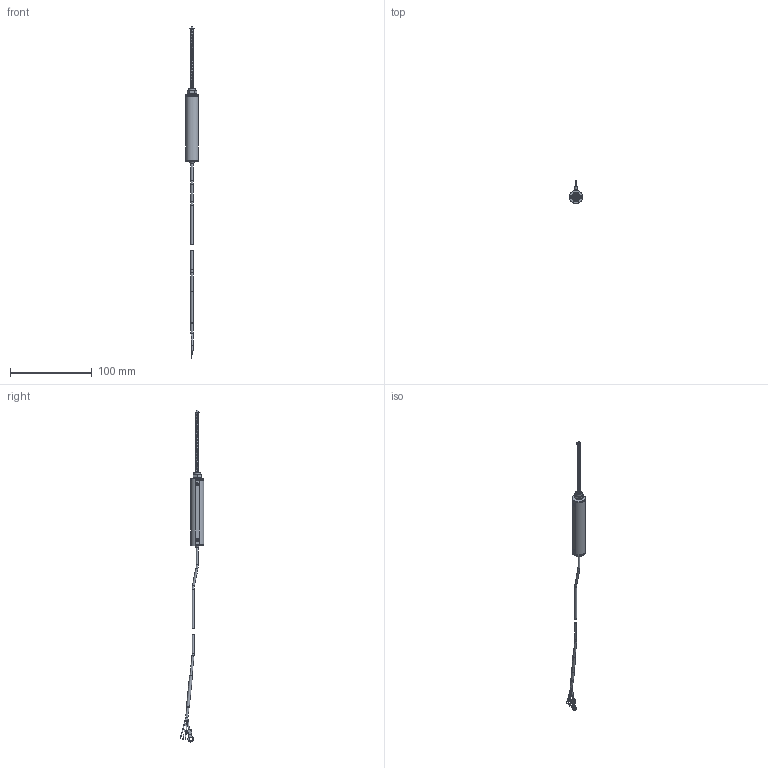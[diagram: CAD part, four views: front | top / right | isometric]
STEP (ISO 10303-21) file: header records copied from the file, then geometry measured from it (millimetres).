
FILE_DESCRIPTION(/* description */ (''),/* implementation_level */ '2;1');
FILE_NAME(/* name */ 'D:\Users\Justin\Documents\CAD Drawings\The Sensor Connection\LPPS\LPPS-MSL\3D\LPPS-MSL-050\LPPS-MSL-050.stp',/* time_stamp */ '2019-08-29T15:22:54-04:00',/* author */ ('Justin'),/* organization */ (''),/* preprocessor_version */ 'ST-DEVELOPER v18',/* originating_system */ 'Autodesk Inventor 2020',/* authorisation */ '');
FILE_SCHEMA (('AUTOMOTIVE_DESIGN { 1 0 10303 214 3 1 1 }'));
Length unit declared in the file: inch
Products named in the file (5): LPPS-MSL-025; LPPS-MSL-050 HOUSING_Shrinkwrap_1; LPPS-MSL-025 SHAFT_Shrinkwrap_1; ISO 4035 - M8(6); LPPS-MSL-050 Spring
Assembly tree (4 placements, depth 2):
  LPPS-MSL-025
    LPPS-MSL-050 HOUSING_Shrinkwrap_1
    LPPS-MSL-025 SHAFT_Shrinkwrap_1
    ISO 4035 - M8(6)
    LPPS-MSL-050 Spring
Bounding box: 15.1 x 28.76 x 405.78 mm (x, y, z)
Volume: 7207 mm3; surface area: 14242.7 mm2
Topology: 24 solids, 24 shells, 341 faces, 863 edges, 583 vertices
Faces by surface type: plane 162, cylinder 83, cone 70, torus 23, sphere 2, bspline 1
Full cylindrical faces by diameter (mm): 0.381 x3, 0.635 x3, 1.5 x1, 1.755 x4, 2 x8, 2.274 x1, 2.5 x6, 2.75 x1, 2.85 x3, 3 x1, 3.5 x5, 4.191 x1, 5 x3, 6.1 x1, 6.5 x2, 6.647 x1, 8 x1, 9 x3, 9.5 x1
Entity records: 17431 total; most frequent: CARTESIAN_POINT 8499, DIRECTION 1774, ORIENTED_EDGE 1714, EDGE_CURVE 857, AXIS2_PLACEMENT_3D 708, VERTEX_POINT 583, EDGE_LOOP 406, LINE 358
